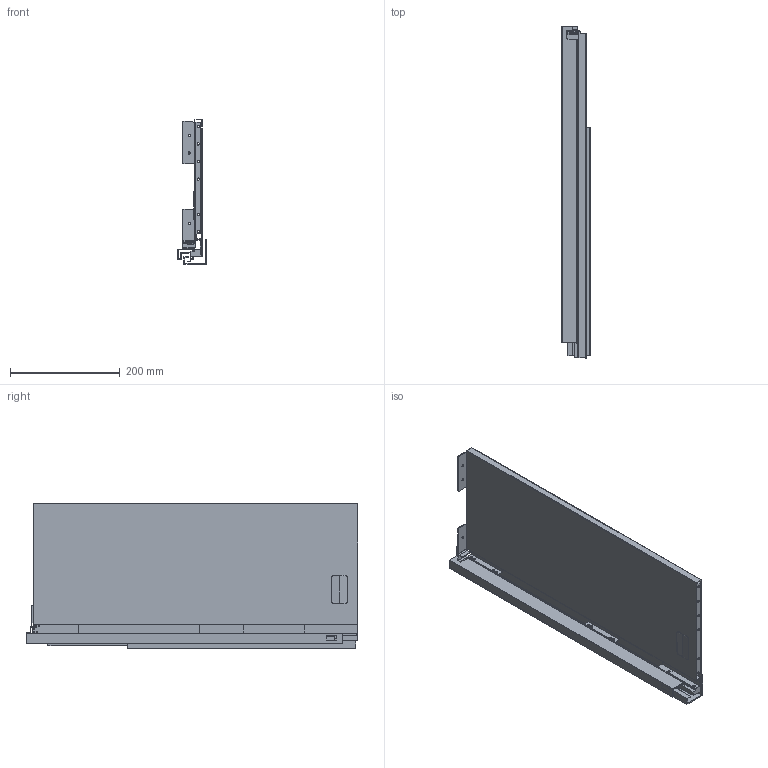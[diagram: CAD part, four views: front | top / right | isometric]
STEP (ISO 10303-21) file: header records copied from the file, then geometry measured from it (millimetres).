
FILE_DESCRIPTION (( 'STEP AP203' ), '1' );
FILE_NAME ('16_P249-600.STEP', '2024-02-22T07:23:15', ( '' ), ( '' ), 'SwSTEP 2.0', 'SolidWorks 2019', '' );
FILE_SCHEMA (( 'CONFIG_CONTROL_DESIGN' ));
Length unit declared in the file: millimetre
Products named in the file (5): P_lock; P_vysuv 600; 16_P_boènice 249-600; krytka Strong; 16_P249-600
Assembly tree (4 placements, depth 2):
  16_P249-600
    P_vysuv 600
    16_P_boènice 249-600
    P_lock
    krytka Strong
Bounding box: 51.8 x 604 x 263.1 mm (x, y, z)
Volume: 346986.8 mm3; surface area: 887913.1 mm2
Topology: 16 solids, 16 shells, 476 faces, 1249 edges, 804 vertices
Faces by surface type: plane 224, cylinder 180, cone 66, bspline 4, torus 2
Entity records: 15817 total; most frequent: CARTESIAN_POINT 3042, DIRECTION 2608, ORIENTED_EDGE 2498, EDGE_CURVE 1249, AXIS2_PLACEMENT_3D 898, VECTOR 812, LINE 812, VERTEX_POINT 804
